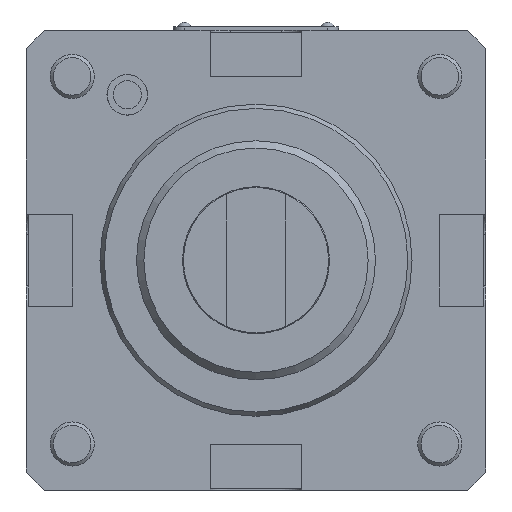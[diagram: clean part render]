
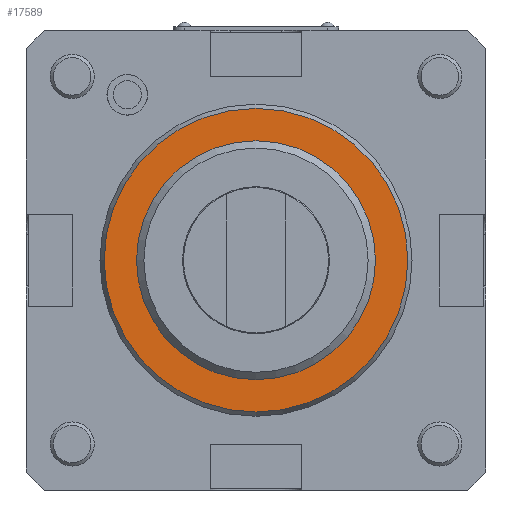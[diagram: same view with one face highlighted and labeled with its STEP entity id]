
A CAD part, left-side view. The second image highlights one B-rep face of the part: STEP entity #17589.
In plain terms, the highlighted planar face has unit normal (-1, 0, 0) as drawn and (1, 0, 0) by its records, which use the part's own axes.
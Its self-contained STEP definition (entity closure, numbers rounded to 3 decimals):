
#8426=PLANE('',#17100);
#9501=ORIENTED_EDGE('',*,*,#11264,.T.);
#9502=ORIENTED_EDGE('',*,*,#11265,.F.);
#10147=CIRCLE('',#17099,41.295);
#10148=CIRCLE('',#17101,32.5);
#10602=VERTEX_POINT('',#16189);
#10603=VERTEX_POINT('',#16192);
#11264=EDGE_CURVE('',#10602,#10602,#10147,.T.);
#11265=EDGE_CURVE('',#10603,#10603,#10148,.T.);
#11769=EDGE_LOOP('',(#9501));
#11770=EDGE_LOOP('',(#9502));
#12257=FACE_BOUND('',#11769,.T.);
#12258=FACE_BOUND('',#11770,.T.);
#13531=DIRECTION('',(1.,0.,0.));
#13532=DIRECTION('',(0.,41.295,0.));
#13533=DIRECTION('',(1.,0.,0.));
#13534=DIRECTION('',(0.,-1.,0.));
#13535=DIRECTION('',(1.,0.,0.));
#13536=DIRECTION('',(0.,32.5,0.));
#16189=CARTESIAN_POINT('',(48.,41.295,0.));
#16190=CARTESIAN_POINT('',(48.,0.,0.));
#16191=CARTESIAN_POINT('',(48.,41.295,0.));
#16192=CARTESIAN_POINT('',(48.,32.5,0.));
#16193=CARTESIAN_POINT('',(48.,0.,0.));
#17099=AXIS2_PLACEMENT_3D('',#16190,#13531,#13532);
#17100=AXIS2_PLACEMENT_3D('',#16191,#13533,#13534);
#17101=AXIS2_PLACEMENT_3D('',#16193,#13535,#13536);
#17589=ADVANCED_FACE('',(#12257,#12258),#8426,.T.);
